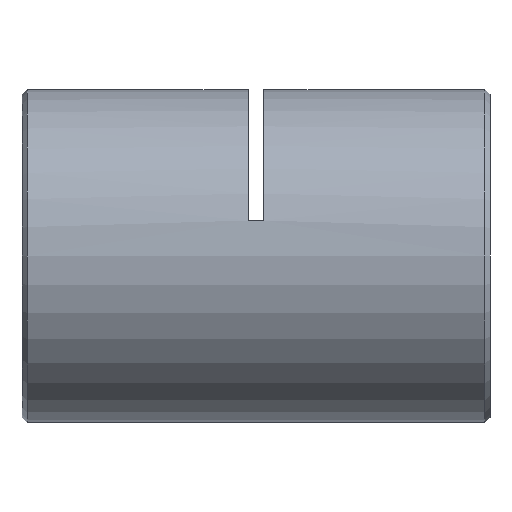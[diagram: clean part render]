
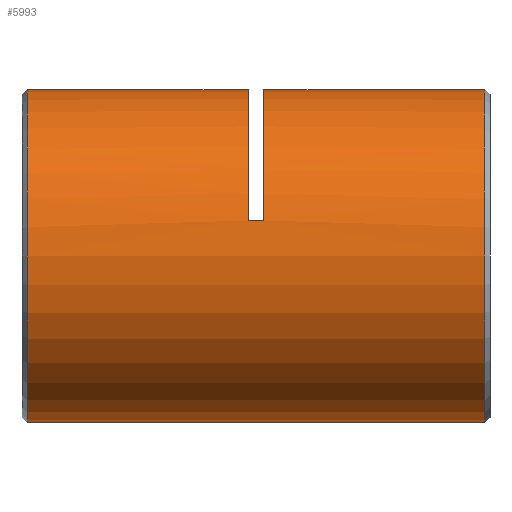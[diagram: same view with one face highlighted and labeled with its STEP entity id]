
A CAD part, left-side view. The second image highlights one B-rep face of the part: STEP entity #5993.
In plain terms, the highlighted cylindrical face has radius 16 mm (diameter 32 mm), a partial arc.
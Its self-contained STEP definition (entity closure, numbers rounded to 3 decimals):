
#10 = CARTESIAN_POINT ( 'NONE',  ( -15.632, 22.75, 3.413 ) ) ;
#117 = CARTESIAN_POINT ( 'NONE',  ( 0., 0.75, -16. ) ) ;
#291 = DIRECTION ( 'NONE',  ( 0., 1., 0. ) ) ;
#325 = EDGE_CURVE ( 'NONE', #4043, #2346, #4425, .T. ) ;
#502 = VERTEX_POINT ( 'NONE', #5289 ) ;
#543 = DIRECTION ( 'NONE',  ( 0., -1., 0. ) ) ;
#598 = EDGE_LOOP ( 'NONE', ( #5853, #2103, #1146, #1148, #3614, #4063, #1943, #1566 ) ) ;
#639 = CARTESIAN_POINT ( 'NONE',  ( 0., 23.5, 16. ) ) ;
#675 = DIRECTION ( 'NONE',  ( 0., 1., 0. ) ) ;
#821 = AXIS2_PLACEMENT_3D ( 'NONE', #1394, #3365, #5333 ) ;
#912 = CARTESIAN_POINT ( 'NONE',  ( 0., 0., 16. ) ) ;
#995 = CARTESIAN_POINT ( 'NONE',  ( 0., 22., 0. ) ) ;
#1146 = ORIENTED_EDGE ( 'NONE', *, *, #3589, .T. ) ;
#1148 = ORIENTED_EDGE ( 'NONE', *, *, #4458, .F. ) ;
#1194 = AXIS2_PLACEMENT_3D ( 'NONE', #6224, #291, #4215 ) ;
#1221 = EDGE_CURVE ( 'NONE', #5692, #4720, #5780, .T. ) ;
#1371 = VECTOR ( 'NONE', #2732, 1000. ) ;
#1394 = CARTESIAN_POINT ( 'NONE',  ( 0., 23.5, 0. ) ) ;
#1497 = AXIS2_PLACEMENT_3D ( 'NONE', #995, #5446, #5418 ) ;
#1566 = ORIENTED_EDGE ( 'NONE', *, *, #4966, .T. ) ;
#1584 = AXIS2_PLACEMENT_3D ( 'NONE', #3528, #5528, #5552 ) ;
#1943 = ORIENTED_EDGE ( 'NONE', *, *, #1221, .T. ) ;
#2013 = CIRCLE ( 'NONE', #1497, 16. ) ;
#2103 = ORIENTED_EDGE ( 'NONE', *, *, #5128, .T. ) ;
#2301 = CARTESIAN_POINT ( 'NONE',  ( -15.632, 23.5, 3.413 ) ) ;
#2346 = VERTEX_POINT ( 'NONE', #2301 ) ;
#2404 = EDGE_CURVE ( 'NONE', #2346, #5692, #6271, .T. ) ;
#2456 = CARTESIAN_POINT ( 'NONE',  ( 0., 44.75, -16. ) ) ;
#2732 = DIRECTION ( 'NONE',  ( 0., 1., 0. ) ) ;
#2759 = LINE ( 'NONE', #3694, #1371 ) ;
#2963 = DIRECTION ( 'NONE',  ( 0., 0., -1. ) ) ;
#3039 = CARTESIAN_POINT ( 'NONE',  ( 0., 0., 16. ) ) ;
#3091 = CYLINDRICAL_SURFACE ( 'NONE', #1584, 16. ) ;
#3203 = CARTESIAN_POINT ( 'NONE',  ( 0., 44.75, 16. ) ) ;
#3293 = CARTESIAN_POINT ( 'NONE',  ( -15.632, 22., 3.413 ) ) ;
#3365 = DIRECTION ( 'NONE',  ( 0., 1., 0. ) ) ;
#3528 = CARTESIAN_POINT ( 'NONE',  ( 0., 0., 0. ) ) ;
#3565 = VERTEX_POINT ( 'NONE', #117 ) ;
#3584 = FACE_OUTER_BOUND ( 'NONE', #598, .T. ) ;
#3589 = EDGE_CURVE ( 'NONE', #5470, #502, #3597, .T. ) ;
#3597 = LINE ( 'NONE', #3039, #4649 ) ;
#3614 = ORIENTED_EDGE ( 'NONE', *, *, #325, .T. ) ;
#3694 = CARTESIAN_POINT ( 'NONE',  ( 0., 0., -16. ) ) ;
#3871 = AXIS2_PLACEMENT_3D ( 'NONE', #5901, #543, #2963 ) ;
#3971 = CIRCLE ( 'NONE', #1194, 16. ) ;
#4043 = VERTEX_POINT ( 'NONE', #3293 ) ;
#4063 = ORIENTED_EDGE ( 'NONE', *, *, #2404, .T. ) ;
#4215 = DIRECTION ( 'NONE',  ( 0., 0., 1. ) ) ;
#4425 = LINE ( 'NONE', #10, #5745 ) ;
#4458 = EDGE_CURVE ( 'NONE', #4043, #502, #2013, .T. ) ;
#4649 = VECTOR ( 'NONE', #675, 1000. ) ;
#4673 = CARTESIAN_POINT ( 'NONE',  ( 0., 0.75, 16. ) ) ;
#4720 = VERTEX_POINT ( 'NONE', #3203 ) ;
#4792 = DIRECTION ( 'NONE',  ( 0., 1., 0. ) ) ;
#4879 = DIRECTION ( 'NONE',  ( 0., 1., 0. ) ) ;
#4911 = CIRCLE ( 'NONE', #3871, 16. ) ;
#4966 = EDGE_CURVE ( 'NONE', #4720, #5212, #4911, .T. ) ;
#5128 = EDGE_CURVE ( 'NONE', #3565, #5470, #3971, .T. ) ;
#5212 = VERTEX_POINT ( 'NONE', #2456 ) ;
#5289 = CARTESIAN_POINT ( 'NONE',  ( 0., 22., 16. ) ) ;
#5333 = DIRECTION ( 'NONE',  ( 0., 0., 1. ) ) ;
#5418 = DIRECTION ( 'NONE',  ( 0., 0., 1. ) ) ;
#5446 = DIRECTION ( 'NONE',  ( 0., 1., 0. ) ) ;
#5455 = EDGE_CURVE ( 'NONE', #3565, #5212, #2759, .T. ) ;
#5470 = VERTEX_POINT ( 'NONE', #4673 ) ;
#5528 = DIRECTION ( 'NONE',  ( 0., 1., 0. ) ) ;
#5552 = DIRECTION ( 'NONE',  ( 0., 0., 1. ) ) ;
#5659 = VECTOR ( 'NONE', #4792, 1000. ) ;
#5692 = VERTEX_POINT ( 'NONE', #639 ) ;
#5745 = VECTOR ( 'NONE', #4879, 1000. ) ;
#5780 = LINE ( 'NONE', #912, #5659 ) ;
#5853 = ORIENTED_EDGE ( 'NONE', *, *, #5455, .F. ) ;
#5901 = CARTESIAN_POINT ( 'NONE',  ( 0., 44.75, 0. ) ) ;
#5993 = ADVANCED_FACE ( 'NONE', ( #3584 ), #3091, .T. ) ;
#6224 = CARTESIAN_POINT ( 'NONE',  ( 0., 0.75, 0. ) ) ;
#6271 = CIRCLE ( 'NONE', #821, 16. ) ;
